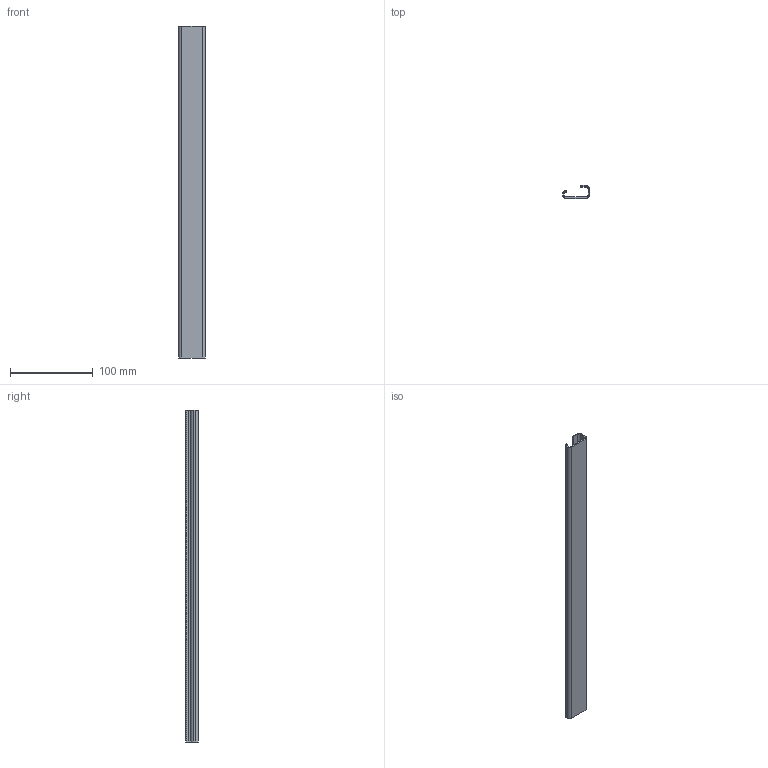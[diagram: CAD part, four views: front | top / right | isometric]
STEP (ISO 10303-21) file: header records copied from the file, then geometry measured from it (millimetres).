
FILE_DESCRIPTION (( 'STEP AP203' ), '1' );
FILE_NAME ('PP1532_V0.STEP', '2019-01-14T09:23:46', ( '' ), ( '' ), 'SwSTEP 2.0', 'SolidWorks 2017', '' );
FILE_SCHEMA (( 'CONFIG_CONTROL_DESIGN' ));
Length unit declared in the file: millimetre
Products named in the file (1): PP1532_V0
Bounding box: 32 x 15.3 x 400 mm (x, y, z)
Volume: 36947.3 mm3; surface area: 50647.7 mm2
Topology: 1 solids, 1 shells, 22 faces, 60 edges, 40 vertices
Faces by surface type: plane 14, cylinder 8
Entity records: 777 total; most frequent: CARTESIAN_POINT 123, DIRECTION 122, ORIENTED_EDGE 120, EDGE_CURVE 60, LINE 44, VECTOR 44, VERTEX_POINT 40, AXIS2_PLACEMENT_3D 39
